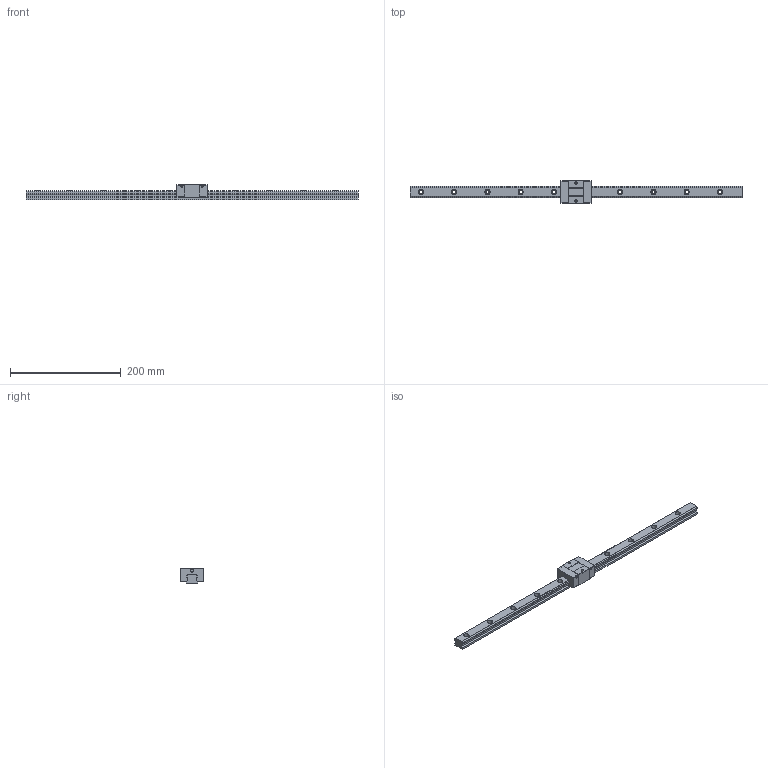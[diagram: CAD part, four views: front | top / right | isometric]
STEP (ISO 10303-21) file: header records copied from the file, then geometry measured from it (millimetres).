
FILE_DESCRIPTION (( 'STEP AP203' ), '1' );
FILE_NAME ('TRS20VS-SU.STEP', '2024-06-26T03:25:40', ( '' ), ( '' ), 'SwSTEP 2.0', 'SolidWorks 2022', '' );
FILE_SCHEMA (( 'CONFIG_CONTROL_DESIGN' ));
Length unit declared in the file: millimetre
Products named in the file (1): TRS20VS-SU
Bounding box: 600 x 42 x 28 mm (x, y, z)
Volume: 208768.4 mm3; surface area: 59826.7 mm2
Topology: 2 solids, 2 shells, 186 faces, 484 edges, 320 vertices
Faces by surface type: plane 94, cylinder 92
Entity records: 5863 total; most frequent: DIRECTION 1042, CARTESIAN_POINT 991, ORIENTED_EDGE 968, EDGE_CURVE 484, AXIS2_PLACEMENT_3D 371, VERTEX_POINT 320, LINE 300, VECTOR 300
